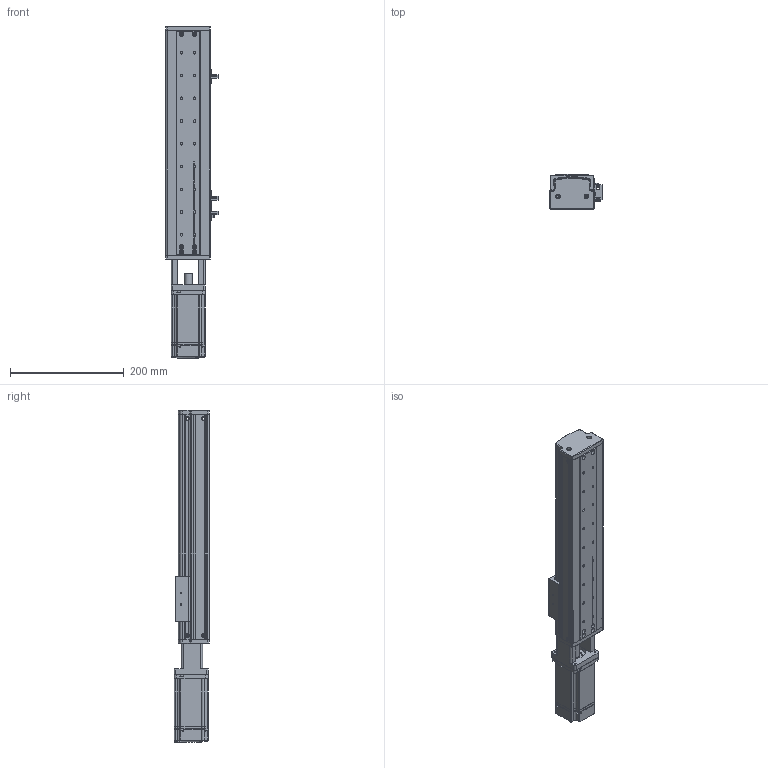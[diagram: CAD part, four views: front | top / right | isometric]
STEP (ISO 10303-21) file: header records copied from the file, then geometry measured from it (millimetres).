
FILE_DESCRIPTION (( 'STEP AP214' ), '1' );
FILE_NAME ('KSD75S-S240-MT-CM.STEP', '2019-10-18T07:30:46', ( '微软用户' ), ( '微软中国' ), 'SwSTEP 2.0', 'SolidWorks 2014', '' );
FILE_SCHEMA (( 'AUTOMOTIVE_DESIGN' ));
Length unit declared in the file: millimetre
Products named in the file (12): 75裔啣-240俴最; 75遵耀郪耜啣-240俴最; 75遵賑雄釱; MGW15H賑寢240俴最 ; MGW15H賑寢240俴最; KSD75S-S240-MT-CM; U倰嫖萇EEㄜSX672; 覜茼え100遵圉猾敕; MHMD042G1CA_2_03; 綴傷啣 ; 100遵鎮湛假蚾啣1 ; ヶ傷啣
Assembly tree (14 placements, depth 3):
  KSD75S-S240-MT-CM
    MGW15H賑寢240俴最 
      MGW15H賑寢240俴最
    75遵賑雄釱
    75遵耀郪耜啣-240俴最  x2
    75裔啣-240俴最
    ヶ傷啣
    100遵鎮湛假蚾啣1 
    綴傷啣 
    MHMD042G1CA_2_03
    覜茼え100遵圉猾敕
    U倰嫖萇EEㄜSX672  x3
Bounding box: 91.7 x 63 x 583.5 mm (x, y, z)
Volume: 618658.8 mm3; surface area: 385123.4 mm2
Topology: 12 solids, 13 shells, 1366 faces, 3885 edges, 2531 vertices
Faces by surface type: cylinder 628, plane 591, cone 129, bspline 18
Entity records: 43972 total; most frequent: CARTESIAN_POINT 8397, DIRECTION 6433, ORIENTED_EDGE 6050, EDGE_CURVE 3096, AXIS2_PLACEMENT_3D 2346, VERTEX_POINT 2049, LINE 1741, VECTOR 1741
